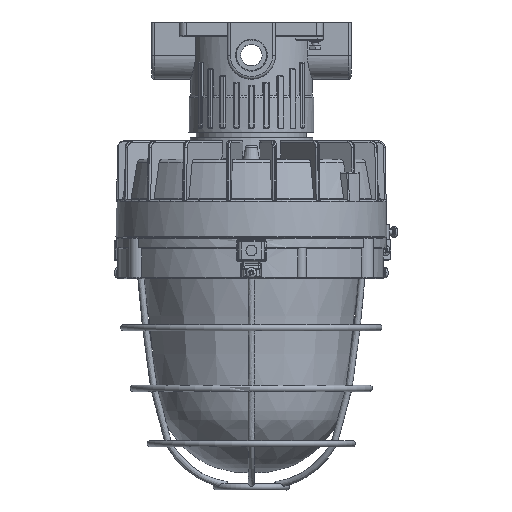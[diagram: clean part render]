
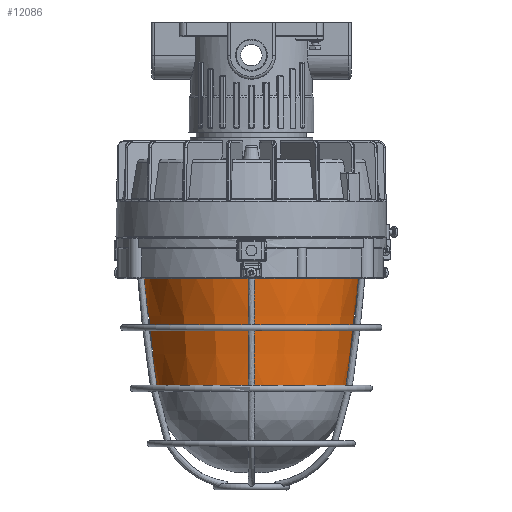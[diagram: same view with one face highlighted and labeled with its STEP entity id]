
A CAD part, front view. The second image highlights one B-rep face of the part: STEP entity #12086.
In plain terms, the highlighted conical face has half-angle 6.116 degrees and reference radius 75.5 mm.
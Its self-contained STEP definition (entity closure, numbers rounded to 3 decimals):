
#12052=CARTESIAN_POINT('',(-50.61,61.956,-27.438));
#12053=VERTEX_POINT('',#12052);
#12054=CARTESIAN_POINT('',(0.,0.,-27.438));
#12055=DIRECTION('',(0.,0.,-1.0));
#12056=DIRECTION('',(-0.633,0.774,0.));
#12057=AXIS2_PLACEMENT_3D('',#12054,#12055,#12056);
#12058=CIRCLE('',#12057,80.0);
#12059=EDGE_CURVE('',#12053,#12053,#12058,.T.);
#12067=CARTESIAN_POINT('',(0.,0.,-69.438));
#12068=DIRECTION('',(0.,0.,1.0));
#12069=DIRECTION('',(-0.633,0.774,0.));
#12070=AXIS2_PLACEMENT_3D('',#12067,#12068,#12069);
#12071=CONICAL_SURFACE('',#12070,75.5,6.116);
#12072=CARTESIAN_POINT('',(-44.917,54.986,-111.438));
#12073=VERTEX_POINT('',#12072);
#12074=CARTESIAN_POINT('',(0.,0.,-111.438));
#12075=DIRECTION('',(0.,0.,-1.0));
#12076=DIRECTION('',(-0.633,0.774,0.));
#12077=AXIS2_PLACEMENT_3D('',#12074,#12075,#12076);
#12078=CIRCLE('',#12077,71.0);
#12079=EDGE_CURVE('',#12073,#12073,#12078,.T.);
#12080=ORIENTED_EDGE('',*,*,#12079,.F.);
#12081=EDGE_LOOP('',(#12080));
#12082=FACE_OUTER_BOUND('',#12081,.T.);
#12083=ORIENTED_EDGE('',*,*,#12059,.T.);
#12084=EDGE_LOOP('',(#12083));
#12085=FACE_BOUND('',#12084,.T.);
#12086=ADVANCED_FACE('',(#12082,#12085),#12071,.T.);
